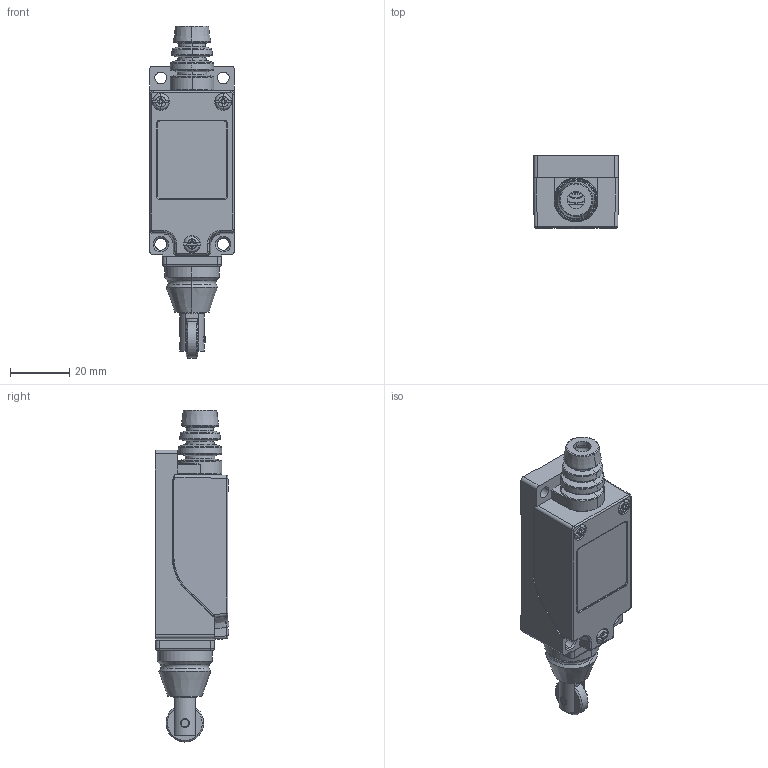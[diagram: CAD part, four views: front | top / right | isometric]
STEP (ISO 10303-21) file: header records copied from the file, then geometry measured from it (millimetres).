
FILE_DESCRIPTION((''),'2;1');
FILE_NAME('ALS1-M11_C_ASM','2019-02-20T15:17:04',('1'),(''),'CREO PARAMETRIC BY PTC INC, 2016510','CREO PARAMETRIC BY PTC INC, 2016510','');
FILE_SCHEMA(('CONFIG_CONTROL_DESIGN'));
Products named in the file (1): ALS1-M11_C_ASM
Bounding box: 28.5 x 24.8 x 111.85 mm (x, y, z)
Volume: 10865.9 mm3; surface area: 25871.6 mm2
Topology: 5 solids, 12 shells, 1299 faces, 3437 edges, 2182 vertices
Faces by surface type: plane 530, cylinder 420, cone 100, torus 99, extrusion 61, bspline 59, sphere 30
Entity records: 54034 total; most frequent: CARTESIAN_POINT 22294, ORIENTED_EDGE 6759, DIRECTION 6393, EDGE_CURVE 3405, AXIS2_PLACEMENT_3D 2284, VERTEX_POINT 2182, VECTOR 1825, LINE 1764
